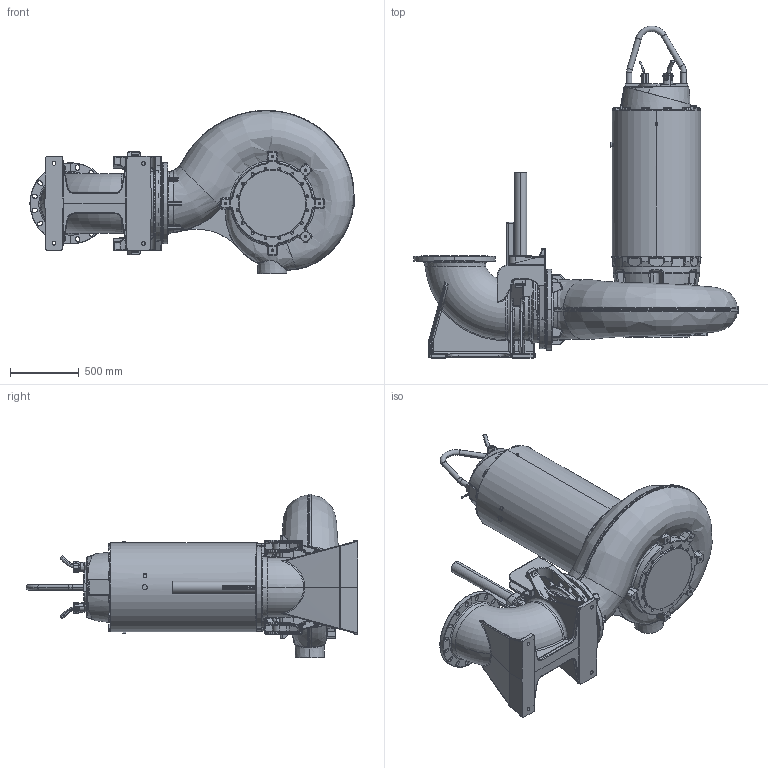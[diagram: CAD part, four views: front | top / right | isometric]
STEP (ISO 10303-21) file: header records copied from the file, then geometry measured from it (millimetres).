
FILE_DESCRIPTION (( 'STEP AP214' ), '1' );
FILE_NAME ('PE6_XFP400M-CH2_WET 3inch_A_NG2.STEP', '2017-03-23T08:15:00', ( '' ), ( '' ), 'SwSTEP 2.0', 'SolidWorks 2017', '' );
FILE_SCHEMA (( 'AUTOMOTIVE_DESIGN' ));
Length unit declared in the file: millimetre
Products named in the file (1): PE6_XFP400M-CH2_WET 3inch_A_NG2
Bounding box: 2353 x 2408.9 x 1184.25 mm (x, y, z)
Volume: 992904962.1 mm3; surface area: 12835219.5 mm2
Topology: 4 solids, 24 shells, 4647 faces, 11399 edges, 6616 vertices
Faces by surface type: cylinder 1304, bspline 1191, plane 1026, torus 500, cone 406, sphere 220
Entity records: 277284 total; most frequent: CARTESIAN_POINT 127169, ORIENTED_EDGE 22212, DIRECTION 19002, EDGE_CURVE 11106, AXIS2_PLACEMENT_3D 7715, VERTEX_POINT 6610, EDGE_LOOP 4908, UNCERTAINTY_MEASURE_WITH_UNIT 4653
